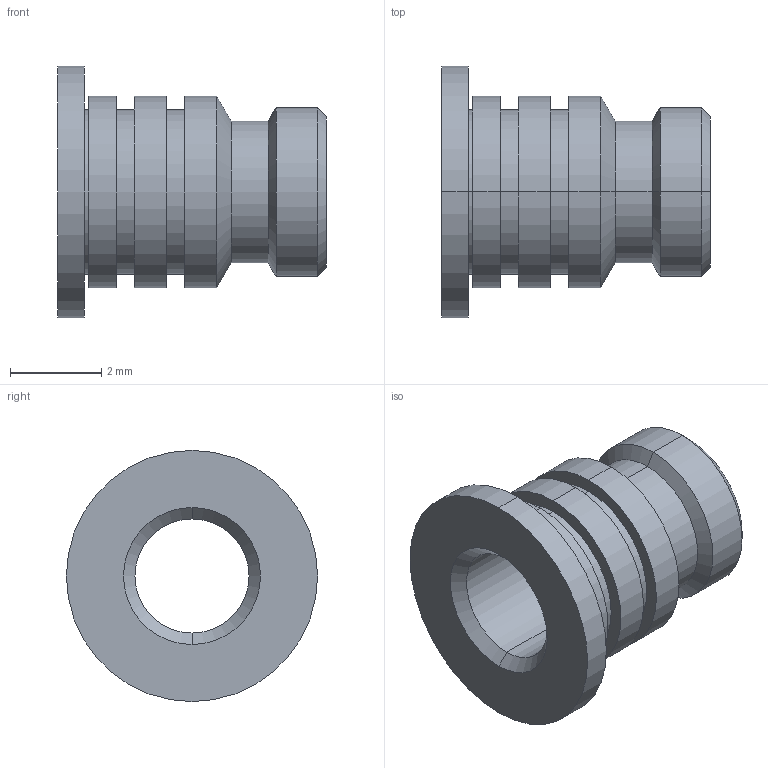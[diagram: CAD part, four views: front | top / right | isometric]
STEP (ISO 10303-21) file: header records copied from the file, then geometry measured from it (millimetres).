
FILE_DESCRIPTION (( 'STEP AP203' ), '1' );
FILE_NAME ('FSUK-MUH-M03-S.STEP', '2021-04-15T13:21:47', ( '' ), ( '' ), 'SwSTEP 2.0', 'SolidWorks 2021', '' );
FILE_SCHEMA (( 'CONFIG_CONTROL_DESIGN' ));
Length unit declared in the file: millimetre
Products named in the file (1): FSUK-MUH-M03-S
Bounding box: 5.88 x 5.5 x 5.5 mm (x, y, z)
Volume: 43.9 mm3; surface area: 177.5 mm2
Topology: 1 solids, 1 shells, 38 faces, 76 edges, 46 vertices
Faces by surface type: cylinder 20, cone 10, plane 8
Entity records: 1075 total; most frequent: DIRECTION 200, CARTESIAN_POINT 161, ORIENTED_EDGE 152, AXIS2_PLACEMENT_3D 85, EDGE_CURVE 76, VERTEX_POINT 46, EDGE_LOOP 46, CIRCLE 46
